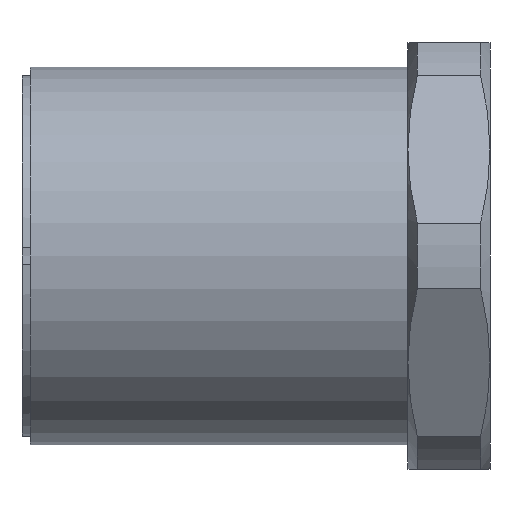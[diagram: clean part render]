
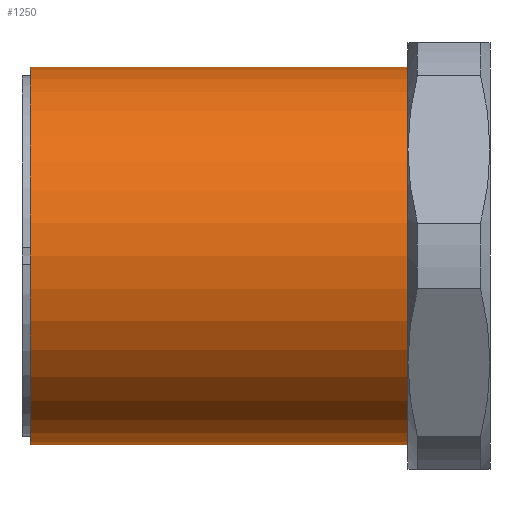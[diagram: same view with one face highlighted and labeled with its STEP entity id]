
A CAD part, front view. The second image highlights one B-rep face of the part: STEP entity #1250.
In plain terms, the highlighted cylindrical face has radius 11.5 mm (diameter 23 mm), a partial arc.
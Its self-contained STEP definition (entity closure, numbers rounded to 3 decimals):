
#274 = DIRECTION ( 'NONE',  ( -1., 0., 0. ) ) ;
#438 = CARTESIAN_POINT ( 'NONE',  ( 0., 0., 0. ) ) ;
#445 = DIRECTION ( 'NONE',  ( 0., 0., 1. ) ) ;
#510 = DIRECTION ( 'NONE',  ( 0., 0., 1. ) ) ;
#511 = DIRECTION ( 'NONE',  ( -1., 0., 0. ) ) ;
#512 = DIRECTION ( 'NONE',  ( -1., 0., 0. ) ) ;
#513 = CARTESIAN_POINT ( 'NONE',  ( 0., 0., 11.5 ) ) ;
#520 = DIRECTION ( 'NONE',  ( -1., 0., 0. ) ) ;
#521 = CARTESIAN_POINT ( 'NONE',  ( 0., 0., 0. ) ) ;
#523 = CARTESIAN_POINT ( 'NONE',  ( 0., 0., -11.5 ) ) ;
#529 = DIRECTION ( 'NONE',  ( 0., 0., 1. ) ) ;
#530 = DIRECTION ( 'NONE',  ( -1., 0., 0. ) ) ;
#556 = CARTESIAN_POINT ( 'NONE',  ( 23., 0., 0. ) ) ;
#563 = CARTESIAN_POINT ( 'NONE',  ( 23., 0., -11.5 ) ) ;
#567 = CARTESIAN_POINT ( 'NONE',  ( 0., 0., -11.5 ) ) ;
#595 = CARTESIAN_POINT ( 'NONE',  ( 0., 0., 11.5 ) ) ;
#612 = CARTESIAN_POINT ( 'NONE',  ( 23., 0., 11.5 ) ) ;
#653 = VERTEX_POINT ( 'NONE', #612 ) ;
#670 = VERTEX_POINT ( 'NONE', #595 ) ;
#698 = VERTEX_POINT ( 'NONE', #567 ) ;
#702 = VERTEX_POINT ( 'NONE', #563 ) ;
#848 = ORIENTED_EDGE ( 'NONE', *, *, #957, .T. ) ;
#875 = EDGE_LOOP ( 'NONE', ( #918, #848, #889, #912 ) ) ;
#889 = ORIENTED_EDGE ( 'NONE', *, *, #966, .T. ) ;
#912 = ORIENTED_EDGE ( 'NONE', *, *, #968, .F. ) ;
#918 = ORIENTED_EDGE ( 'NONE', *, *, #963, .F. ) ;
#942 = AXIS2_PLACEMENT_3D ( 'NONE', #556, #530, #529 ) ;
#943 = AXIS2_PLACEMENT_3D ( 'NONE', #521, #511, #510 ) ;
#957 = EDGE_CURVE ( 'NONE', #702, #653, #1357, .T. ) ;
#963 = EDGE_CURVE ( 'NONE', #702, #698, #1367, .T. ) ;
#966 = EDGE_CURVE ( 'NONE', #653, #670, #1400, .T. ) ;
#968 = EDGE_CURVE ( 'NONE', #698, #670, #1396, .T. ) ;
#981 = AXIS2_PLACEMENT_3D ( 'NONE', #438, #274, #445 ) ;
#1250 = ADVANCED_FACE ( 'NONE', ( #1259 ), #1340, .T. ) ;
#1259 = FACE_OUTER_BOUND ( 'NONE', #875, .T. ) ;
#1340 = CYLINDRICAL_SURFACE ( 'NONE', #981, 11.5 ) ;
#1357 = CIRCLE ( 'NONE', #942, 11.5 ) ;
#1367 = LINE ( 'NONE', #523, #1447 ) ;
#1396 = CIRCLE ( 'NONE', #943, 11.5 ) ;
#1400 = LINE ( 'NONE', #513, #1438 ) ;
#1438 = VECTOR ( 'NONE', #512, 1000. ) ;
#1447 = VECTOR ( 'NONE', #520, 1000. ) ;
